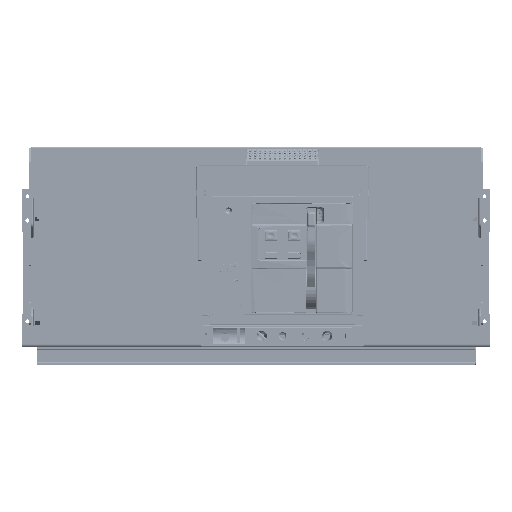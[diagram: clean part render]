
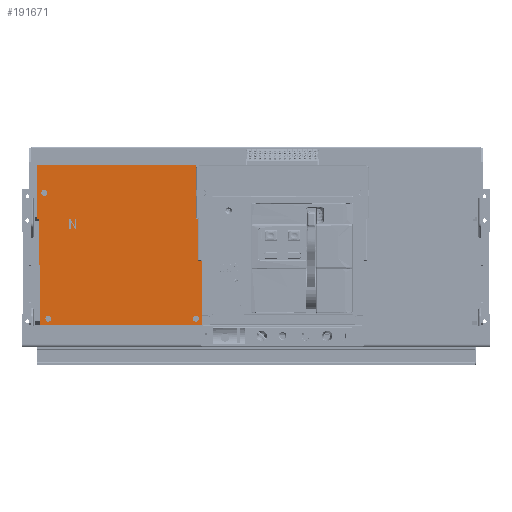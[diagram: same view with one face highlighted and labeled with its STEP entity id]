
A CAD part, front view. The second image highlights one B-rep face of the part: STEP entity #191671.
In plain terms, the highlighted planar face has unit normal (0, -1, 0) as drawn and (0, 0, -1) by its records, which use the part's own axes.
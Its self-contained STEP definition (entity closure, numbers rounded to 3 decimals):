
#173635=DIRECTION('',(-1.,0.,0.));
#173636=VECTOR('',#173635,4.);
#173637=CARTESIAN_POINT('',(-102.951,210.494,0.));
#173638=LINE('',#173637,#173636);
#173649=CARTESIAN_POINT('',(-101.701,-6.506,0.));
#173650=DIRECTION('',(0.,0.,1.));
#173651=DIRECTION('',(1.,0.,0.));
#173652=AXIS2_PLACEMENT_3D('',#173649,#173650,#173651);
#173657=CARTESIAN_POINT('',(-101.701,-6.506,0.));
#173658=DIRECTION('',(0.,0.,1.));
#173659=DIRECTION('',(-1.,0.,0.));
#173660=AXIS2_PLACEMENT_3D('',#173657,#173658,#173659);
#173665=CARTESIAN_POINT('',(218.299,-6.506,0.));
#173666=DIRECTION('',(0.,0.,1.));
#173667=DIRECTION('',(1.,0.,0.));
#173668=AXIS2_PLACEMENT_3D('',#173665,#173666,#173667);
#173673=CARTESIAN_POINT('',(218.299,-6.506,0.));
#173674=DIRECTION('',(0.,0.,1.));
#173675=DIRECTION('',(-1.,0.,0.));
#173676=AXIS2_PLACEMENT_3D('',#173673,#173674,#173675);
#173681=CARTESIAN_POINT('',(227.299,266.494,0.));
#173682=DIRECTION('',(0.,0.,1.));
#173683=DIRECTION('',(1.,0.,0.));
#173684=AXIS2_PLACEMENT_3D('',#173681,#173682,#173683);
#173689=CARTESIAN_POINT('',(227.299,266.494,0.));
#173690=DIRECTION('',(0.,0.,1.));
#173691=DIRECTION('',(-1.,0.,0.));
#173692=AXIS2_PLACEMENT_3D('',#173689,#173690,#173691);
#173697=DIRECTION('',(0.492,0.871,0.));
#173698=VECTOR('',#173697,18.3);
#173699=CARTESIAN_POINT('',(160.799,188.994,0.));
#173700=LINE('',#173699,#173698);
#173704=DIRECTION('',(-0.492,-0.871,0.));
#173705=VECTOR('',#173704,18.3);
#173706=CARTESIAN_POINT('',(169.799,208.994,0.));
#173707=LINE('',#173706,#173705);
#173711=DIRECTION('',(0.,1.,0.));
#173712=VECTOR('',#173711,91.);
#173713=CARTESIAN_POINT('',(-106.951,119.494,0.));
#173714=LINE('',#173713,#173712);
#173718=DIRECTION('',(1.,0.,0.));
#173719=VECTOR('',#173718,7.5);
#173720=CARTESIAN_POINT('',(-114.451,119.494,0.));
#173721=LINE('',#173720,#173719);
#173725=DIRECTION('',(0.,1.,0.));
#173726=VECTOR('',#173725,139.5);
#173727=CARTESIAN_POINT('',(-114.451,-20.006,0.));
#173728=LINE('',#173727,#173726);
#173732=DIRECTION('',(-1.,0.,0.));
#173733=VECTOR('',#173732,351.745);
#173734=CARTESIAN_POINT('',(237.294,-20.006,0.));
#173735=LINE('',#173734,#173733);
#173739=DIRECTION('',(0.,-1.,0.));
#173740=VECTOR('',#173739,129.);
#173741=CARTESIAN_POINT('',(237.294,108.994,0.));
#173742=LINE('',#173741,#173740);
#173746=DIRECTION('',(-1.,0.,0.));
#173747=VECTOR('',#173746,2.);
#173748=CARTESIAN_POINT('',(239.294,108.994,0.));
#173749=LINE('',#173748,#173747);
#173753=DIRECTION('',(0.,-1.,0.));
#173754=VECTOR('',#173753,100.);
#173755=CARTESIAN_POINT('',(239.294,208.994,0.));
#173756=LINE('',#173755,#173754);
#173760=DIRECTION('',(0.,-1.,0.));
#173761=VECTOR('',#173760,117.);
#173762=CARTESIAN_POINT('',(243.794,325.994,0.));
#173763=LINE('',#173762,#173761);
#173767=DIRECTION('',(1.,0.,0.));
#173768=VECTOR('',#173767,346.745);
#173769=CARTESIAN_POINT('',(-102.951,325.994,0.));
#173770=LINE('',#173769,#173768);
#173774=DIRECTION('',(0.,1.,0.));
#173775=VECTOR('',#173774,115.5);
#173776=CARTESIAN_POINT('',(-102.951,210.494,0.));
#173777=LINE('',#173776,#173775);
#180608=DIRECTION('',(1.,0.,0.));
#180609=VECTOR('',#180608,4.5);
#180610=CARTESIAN_POINT('',(239.294,208.994,0.));
#180611=LINE('',#180610,#180609);
#188857=DIRECTION('',(0.,-1.,0.));
#188858=VECTOR('',#188857,20.);
#188859=CARTESIAN_POINT('',(172.799,208.994,0.));
#188860=LINE('',#188859,#188858);
#188871=DIRECTION('',(1.,0.,0.));
#188872=VECTOR('',#188871,3.);
#188873=CARTESIAN_POINT('',(169.799,208.994,0.));
#188874=LINE('',#188873,#188872);
#188892=DIRECTION('',(0.,-1.,0.));
#188893=VECTOR('',#188892,15.933);
#188894=CARTESIAN_POINT('',(160.799,208.994,0.));
#188895=LINE('',#188894,#188893);
#188906=DIRECTION('',(1.,0.,0.));
#188907=VECTOR('',#188906,3.);
#188908=CARTESIAN_POINT('',(157.799,208.994,0.));
#188909=LINE('',#188908,#188907);
#188920=DIRECTION('',(0.,1.,0.));
#188921=VECTOR('',#188920,20.);
#188922=CARTESIAN_POINT('',(157.799,188.994,0.));
#188923=LINE('',#188922,#188921);
#188934=DIRECTION('',(-1.,0.,0.));
#188935=VECTOR('',#188934,3.);
#188936=CARTESIAN_POINT('',(160.799,188.994,0.));
#188937=LINE('',#188936,#188935);
#188955=DIRECTION('',(0.,1.,0.));
#188956=VECTOR('',#188955,15.933);
#188957=CARTESIAN_POINT('',(169.799,188.994,0.));
#188958=LINE('',#188957,#188956);
#188969=DIRECTION('',(-1.,0.,0.));
#188970=VECTOR('',#188969,3.);
#188971=CARTESIAN_POINT('',(172.799,188.994,0.));
#188972=LINE('',#188971,#188970);
#189054=CARTESIAN_POINT('',(-114.451,119.494,0.));
#189056=VERTEX_POINT('',#189054);
#189057=CARTESIAN_POINT('',(-114.451,-20.006,0.));
#189058=VERTEX_POINT('',#189057);
#189061=CARTESIAN_POINT('',(172.799,208.994,0.));
#189062=CARTESIAN_POINT('',(172.799,188.994,0.));
#189063=VERTEX_POINT('',#189061);
#189064=VERTEX_POINT('',#189062);
#189065=CARTESIAN_POINT('',(169.799,208.994,0.));
#189066=VERTEX_POINT('',#189065);
#189067=CARTESIAN_POINT('',(160.799,193.06,0.));
#189068=VERTEX_POINT('',#189067);
#189069=CARTESIAN_POINT('',(160.799,208.994,0.));
#189070=VERTEX_POINT('',#189069);
#189071=CARTESIAN_POINT('',(157.799,208.994,0.));
#189072=VERTEX_POINT('',#189071);
#189073=CARTESIAN_POINT('',(157.799,188.994,0.));
#189074=VERTEX_POINT('',#189073);
#189075=CARTESIAN_POINT('',(160.799,188.994,0.));
#189076=VERTEX_POINT('',#189075);
#189077=CARTESIAN_POINT('',(169.799,204.927,0.));
#189078=VERTEX_POINT('',#189077);
#189079=CARTESIAN_POINT('',(169.799,188.994,0.));
#189080=VERTEX_POINT('',#189079);
#189081=CARTESIAN_POINT('',(-106.951,119.494,0.));
#189082=CARTESIAN_POINT('',(-106.951,210.494,0.));
#189083=VERTEX_POINT('',#189081);
#189084=VERTEX_POINT('',#189082);
#189085=CARTESIAN_POINT('',(-102.951,210.494,0.));
#189086=VERTEX_POINT('',#189085);
#189087=CARTESIAN_POINT('',(-102.951,325.994,0.));
#189088=VERTEX_POINT('',#189087);
#189089=CARTESIAN_POINT('',(243.794,325.994,0.));
#189090=VERTEX_POINT('',#189089);
#189091=CARTESIAN_POINT('',(243.794,208.994,0.));
#189092=VERTEX_POINT('',#189091);
#189093=CARTESIAN_POINT('',(239.294,208.994,0.));
#189094=VERTEX_POINT('',#189093);
#189095=CARTESIAN_POINT('',(239.294,108.994,0.));
#189096=VERTEX_POINT('',#189095);
#189097=CARTESIAN_POINT('',(237.294,108.994,0.));
#189098=VERTEX_POINT('',#189097);
#189099=CARTESIAN_POINT('',(237.294,-20.006,0.));
#189100=VERTEX_POINT('',#189099);
#191477=CARTESIAN_POINT('',(224.799,-6.506,0.));
#191479=VERTEX_POINT('',#191477);
#191481=CARTESIAN_POINT('',(211.799,-6.506,0.));
#191483=VERTEX_POINT('',#191481);
#191485=CARTESIAN_POINT('',(233.799,266.494,0.));
#191487=VERTEX_POINT('',#191485);
#191489=CARTESIAN_POINT('',(220.799,266.494,0.));
#191491=VERTEX_POINT('',#191489);
#191501=CARTESIAN_POINT('',(-95.201,-6.506,0.));
#191503=VERTEX_POINT('',#191501);
#191505=CARTESIAN_POINT('',(-108.201,-6.506,0.));
#191507=VERTEX_POINT('',#191505);
#191604=CARTESIAN_POINT('',(115.799,-20.006,0.));
#191605=DIRECTION('',(0.,0.,1.));
#191606=DIRECTION('',(1.,0.,0.));
#191607=AXIS2_PLACEMENT_3D('',#191604,#191605,#191606);
#191608=PLANE('',#191607);
#191609=ORIENTED_EDGE('',*,*,#191548,.F.);
#191610=ORIENTED_EDGE('',*,*,#191535,.F.);
#191611=ORIENTED_EDGE('',*,*,#191520,.F.);
#191613=ORIENTED_EDGE('',*,*,#191612,.F.);
#191615=ORIENTED_EDGE('',*,*,#191614,.F.);
#191617=ORIENTED_EDGE('',*,*,#191616,.F.);
#191619=ORIENTED_EDGE('',*,*,#191618,.F.);
#191621=ORIENTED_EDGE('',*,*,#191620,.T.);
#191623=ORIENTED_EDGE('',*,*,#191622,.F.);
#191625=ORIENTED_EDGE('',*,*,#191624,.F.);
#191627=ORIENTED_EDGE('',*,*,#191626,.F.);
#191628=ORIENTED_EDGE('',*,*,#191595,.T.);
#191629=EDGE_LOOP('',(#191609,#191610,#191611,#191613,#191615,#191617,#191619,
#191621,#191623,#191625,#191627,#191628));
#191630=FACE_OUTER_BOUND('',#191629,.F.);
#191632=ORIENTED_EDGE('',*,*,#191631,.F.);
#191634=ORIENTED_EDGE('',*,*,#191633,.F.);
#191635=EDGE_LOOP('',(#191632,#191634));
#191636=FACE_BOUND('',#191635,.F.);
#191638=ORIENTED_EDGE('',*,*,#191637,.F.);
#191640=ORIENTED_EDGE('',*,*,#191639,.F.);
#191641=EDGE_LOOP('',(#191638,#191640));
#191642=FACE_BOUND('',#191641,.F.);
#191644=ORIENTED_EDGE('',*,*,#191643,.T.);
#191646=ORIENTED_EDGE('',*,*,#191645,.T.);
#191648=ORIENTED_EDGE('',*,*,#191647,.T.);
#191650=ORIENTED_EDGE('',*,*,#191649,.F.);
#191652=ORIENTED_EDGE('',*,*,#191651,.T.);
#191654=ORIENTED_EDGE('',*,*,#191653,.T.);
#191656=ORIENTED_EDGE('',*,*,#191655,.T.);
#191658=ORIENTED_EDGE('',*,*,#191657,.T.);
#191660=ORIENTED_EDGE('',*,*,#191659,.F.);
#191662=ORIENTED_EDGE('',*,*,#191661,.T.);
#191663=EDGE_LOOP('',(#191644,#191646,#191648,#191650,#191652,#191654,#191656,
#191658,#191660,#191662));
#191664=FACE_BOUND('',#191663,.F.);
#191666=ORIENTED_EDGE('',*,*,#191665,.F.);
#191668=ORIENTED_EDGE('',*,*,#191667,.F.);
#191669=EDGE_LOOP('',(#191666,#191668));
#191670=FACE_BOUND('',#191669,.F.);
#191671=ADVANCED_FACE('',(#191630,#191636,#191642,#191664,#191670),#191608,.F.);
#173653=CIRCLE('',#173652,6.5);
#173661=CIRCLE('',#173660,6.5);
#173669=CIRCLE('',#173668,6.5);
#173677=CIRCLE('',#173676,6.5);
#173685=CIRCLE('',#173684,6.5);
#173693=CIRCLE('',#173692,6.5);
#191520=EDGE_CURVE('',#189058,#189056,#173728,.T.);
#191535=EDGE_CURVE('',#189056,#189083,#173721,.T.);
#191548=EDGE_CURVE('',#189083,#189084,#173714,.T.);
#191595=EDGE_CURVE('',#189086,#189084,#173638,.T.);
#191612=EDGE_CURVE('',#189100,#189058,#173735,.T.);
#191614=EDGE_CURVE('',#189098,#189100,#173742,.T.);
#191616=EDGE_CURVE('',#189096,#189098,#173749,.T.);
#191618=EDGE_CURVE('',#189094,#189096,#173756,.T.);
#191620=EDGE_CURVE('',#189094,#189092,#180611,.T.);
#191622=EDGE_CURVE('',#189090,#189092,#173763,.T.);
#191624=EDGE_CURVE('',#189088,#189090,#173770,.T.);
#191626=EDGE_CURVE('',#189086,#189088,#173777,.T.);
#191631=EDGE_CURVE('',#191479,#191483,#173669,.T.);
#191633=EDGE_CURVE('',#191483,#191479,#173677,.T.);
#191637=EDGE_CURVE('',#191487,#191491,#173685,.T.);
#191639=EDGE_CURVE('',#191491,#191487,#173693,.T.);
#191643=EDGE_CURVE('',#189063,#189064,#188860,.T.);
#191645=EDGE_CURVE('',#189064,#189080,#188972,.T.);
#191647=EDGE_CURVE('',#189080,#189078,#188958,.T.);
#191649=EDGE_CURVE('',#189076,#189078,#173700,.T.);
#191651=EDGE_CURVE('',#189076,#189074,#188937,.T.);
#191653=EDGE_CURVE('',#189074,#189072,#188923,.T.);
#191655=EDGE_CURVE('',#189072,#189070,#188909,.T.);
#191657=EDGE_CURVE('',#189070,#189068,#188895,.T.);
#191659=EDGE_CURVE('',#189066,#189068,#173707,.T.);
#191661=EDGE_CURVE('',#189066,#189063,#188874,.T.);
#191665=EDGE_CURVE('',#191503,#191507,#173653,.T.);
#191667=EDGE_CURVE('',#191507,#191503,#173661,.T.);
